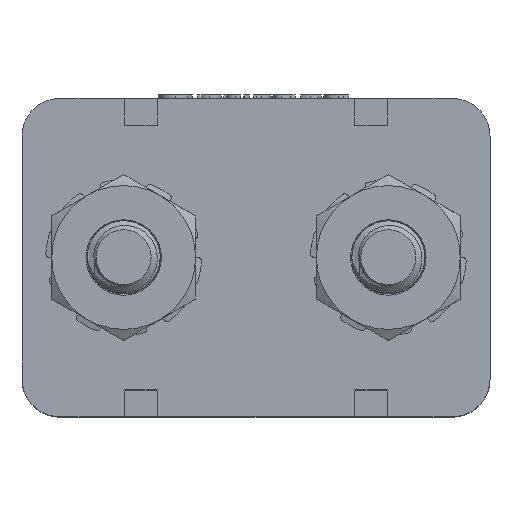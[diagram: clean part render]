
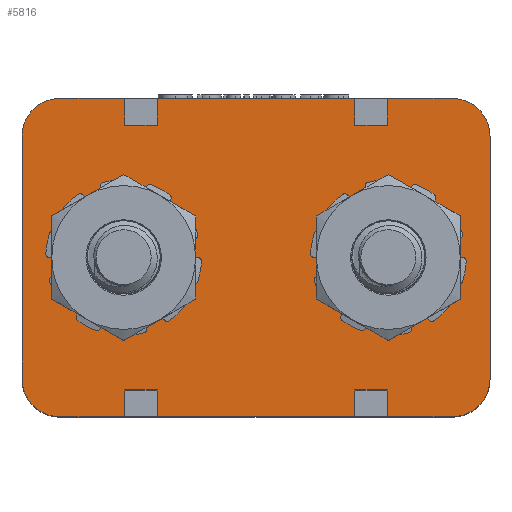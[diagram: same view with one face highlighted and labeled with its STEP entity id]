
A CAD part, top view. The second image highlights one B-rep face of the part: STEP entity #5816.
In plain terms, the highlighted planar face has unit normal (0, 0, 1).
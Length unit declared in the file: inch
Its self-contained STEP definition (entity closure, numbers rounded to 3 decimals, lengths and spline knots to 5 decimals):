
#631=PLANE('',#6155);
#825=FACE_OUTER_BOUND('',#1153,.T.);
#1153=EDGE_LOOP('',(#4549,#4550,#4551,#4552,#4553,#4554,#4555,#4556,#4557,
#4558,#4559,#4560,#4561,#4562,#4563,#4564,#4565,#4566,#4567,#4568,#4569,
#4570,#4571,#4572));
#1562=LINE('',#9263,#1962);
#1565=LINE('',#9269,#1965);
#1569=LINE('',#9276,#1969);
#1572=LINE('',#9284,#1972);
#1575=LINE('',#9290,#1975);
#1579=LINE('',#9297,#1979);
#1582=LINE('',#9305,#1982);
#1585=LINE('',#9311,#1985);
#1589=LINE('',#9318,#1989);
#1592=LINE('',#9324,#1992);
#1593=LINE('',#9327,#1993);
#1605=LINE('',#9357,#2005);
#1607=LINE('',#9360,#2007);
#1608=LINE('',#9364,#2008);
#1609=LINE('',#9368,#2009);
#1610=LINE('',#9370,#2010);
#1611=LINE('',#9372,#2011);
#1612=LINE('',#9373,#2012);
#1613=LINE('',#9375,#2013);
#1614=LINE('',#9379,#2014);
#1962=VECTOR('',#6875,0.3937);
#1965=VECTOR('',#6880,0.3937);
#1969=VECTOR('',#6886,0.3937);
#1972=VECTOR('',#6891,0.3937);
#1975=VECTOR('',#6896,0.3937);
#1979=VECTOR('',#6902,0.3937);
#1982=VECTOR('',#6907,0.3937);
#1985=VECTOR('',#6912,0.3937);
#1989=VECTOR('',#6918,0.3937);
#1992=VECTOR('',#6923,0.3937);
#1993=VECTOR('',#6926,0.3937);
#2005=VECTOR('',#6950,0.3937);
#2007=VECTOR('',#6954,0.3937);
#2008=VECTOR('',#6957,0.3937);
#2009=VECTOR('',#6960,0.3937);
#2010=VECTOR('',#6961,0.3937);
#2011=VECTOR('',#6962,0.3937);
#2012=VECTOR('',#6963,0.3937);
#2013=VECTOR('',#6964,0.3937);
#2014=VECTOR('',#6967,0.3937);
#2128=CIRCLE('',#6156,0.09843);
#2129=CIRCLE('',#6157,0.09843);
#2130=CIRCLE('',#6158,0.09843);
#2131=CIRCLE('',#6159,0.09843);
#2485=VERTEX_POINT('',#9260);
#2486=VERTEX_POINT('',#9262);
#2488=VERTEX_POINT('',#9268);
#2490=VERTEX_POINT('',#9274);
#2493=VERTEX_POINT('',#9281);
#2494=VERTEX_POINT('',#9283);
#2496=VERTEX_POINT('',#9289);
#2498=VERTEX_POINT('',#9295);
#2501=VERTEX_POINT('',#9302);
#2502=VERTEX_POINT('',#9304);
#2504=VERTEX_POINT('',#9310);
#2506=VERTEX_POINT('',#9316);
#2508=VERTEX_POINT('',#9322);
#2509=VERTEX_POINT('',#9326);
#2521=VERTEX_POINT('',#9356);
#2522=VERTEX_POINT('',#9361);
#2523=VERTEX_POINT('',#9363);
#2524=VERTEX_POINT('',#9365);
#2525=VERTEX_POINT('',#9367);
#2526=VERTEX_POINT('',#9369);
#2527=VERTEX_POINT('',#9371);
#2528=VERTEX_POINT('',#9374);
#2529=VERTEX_POINT('',#9376);
#2530=VERTEX_POINT('',#9378);
#3199=EDGE_CURVE('',#2486,#2485,#1562,.T.);
#3202=EDGE_CURVE('',#2488,#2486,#1565,.T.);
#3206=EDGE_CURVE('',#2485,#2490,#1569,.T.);
#3209=EDGE_CURVE('',#2494,#2493,#1572,.T.);
#3212=EDGE_CURVE('',#2496,#2494,#1575,.T.);
#3216=EDGE_CURVE('',#2493,#2498,#1579,.T.);
#3219=EDGE_CURVE('',#2502,#2501,#1582,.T.);
#3222=EDGE_CURVE('',#2504,#2502,#1585,.T.);
#3226=EDGE_CURVE('',#2501,#2506,#1589,.T.);
#3229=EDGE_CURVE('',#2498,#2508,#1592,.T.);
#3230=EDGE_CURVE('',#2509,#2488,#1593,.T.);
#3246=EDGE_CURVE('',#2521,#2504,#1605,.T.);
#3248=EDGE_CURVE('',#2490,#2496,#1607,.T.);
#3249=EDGE_CURVE('',#2522,#2508,#2128,.T.);
#3250=EDGE_CURVE('',#2522,#2523,#1608,.T.);
#3251=EDGE_CURVE('',#2524,#2523,#2129,.T.);
#3252=EDGE_CURVE('',#2524,#2525,#1609,.T.);
#3253=EDGE_CURVE('',#2525,#2526,#1610,.T.);
#3254=EDGE_CURVE('',#2526,#2527,#1611,.T.);
#3255=EDGE_CURVE('',#2527,#2521,#1612,.T.);
#3256=EDGE_CURVE('',#2506,#2528,#1613,.T.);
#3257=EDGE_CURVE('',#2529,#2528,#2130,.T.);
#3258=EDGE_CURVE('',#2529,#2530,#1614,.T.);
#3259=EDGE_CURVE('',#2509,#2530,#2131,.T.);
#4549=ORIENTED_EDGE('',*,*,#3202,.T.);
#4550=ORIENTED_EDGE('',*,*,#3199,.T.);
#4551=ORIENTED_EDGE('',*,*,#3206,.T.);
#4552=ORIENTED_EDGE('',*,*,#3248,.T.);
#4553=ORIENTED_EDGE('',*,*,#3212,.T.);
#4554=ORIENTED_EDGE('',*,*,#3209,.T.);
#4555=ORIENTED_EDGE('',*,*,#3216,.T.);
#4556=ORIENTED_EDGE('',*,*,#3229,.T.);
#4557=ORIENTED_EDGE('',*,*,#3249,.F.);
#4558=ORIENTED_EDGE('',*,*,#3250,.T.);
#4559=ORIENTED_EDGE('',*,*,#3251,.F.);
#4560=ORIENTED_EDGE('',*,*,#3252,.T.);
#4561=ORIENTED_EDGE('',*,*,#3253,.T.);
#4562=ORIENTED_EDGE('',*,*,#3254,.T.);
#4563=ORIENTED_EDGE('',*,*,#3255,.T.);
#4564=ORIENTED_EDGE('',*,*,#3246,.T.);
#4565=ORIENTED_EDGE('',*,*,#3222,.T.);
#4566=ORIENTED_EDGE('',*,*,#3219,.T.);
#4567=ORIENTED_EDGE('',*,*,#3226,.T.);
#4568=ORIENTED_EDGE('',*,*,#3256,.T.);
#4569=ORIENTED_EDGE('',*,*,#3257,.F.);
#4570=ORIENTED_EDGE('',*,*,#3258,.T.);
#4571=ORIENTED_EDGE('',*,*,#3259,.F.);
#4572=ORIENTED_EDGE('',*,*,#3230,.T.);
#5816=ADVANCED_FACE('',(#825),#631,.T.);
#6155=AXIS2_PLACEMENT_3D('',#9359,#6952,#6953);
#6156=AXIS2_PLACEMENT_3D('',#9362,#6955,#6956);
#6157=AXIS2_PLACEMENT_3D('',#9366,#6958,#6959);
#6158=AXIS2_PLACEMENT_3D('',#9377,#6965,#6966);
#6159=AXIS2_PLACEMENT_3D('',#9380,#6968,#6969);
#6875=DIRECTION('',(1.,0.,0.));
#6880=DIRECTION('',(0.,1.,0.));
#6886=DIRECTION('',(0.,-1.,0.));
#6891=DIRECTION('',(1.,0.,0.));
#6896=DIRECTION('',(0.,1.,0.));
#6902=DIRECTION('',(0.,-1.,0.));
#6907=DIRECTION('',(-1.,0.,0.));
#6912=DIRECTION('',(0.,-1.,0.));
#6918=DIRECTION('',(0.,1.,0.));
#6923=DIRECTION('',(1.,0.,0.));
#6926=DIRECTION('',(1.,0.,0.));
#6950=DIRECTION('',(-1.,0.,0.));
#6952=DIRECTION('center_axis',(0.,0.,1.));
#6953=DIRECTION('ref_axis',(1.,0.,0.));
#6954=DIRECTION('',(1.,0.,0.));
#6955=DIRECTION('center_axis',(0.,0.,-1.));
#6956=DIRECTION('ref_axis',(0.707,-0.707,0.));
#6957=DIRECTION('',(0.,1.,0.));
#6958=DIRECTION('center_axis',(0.,0.,-1.));
#6959=DIRECTION('ref_axis',(0.707,0.707,0.));
#6960=DIRECTION('',(-1.,0.,0.));
#6961=DIRECTION('',(0.,-1.,0.));
#6962=DIRECTION('',(-1.,0.,0.));
#6963=DIRECTION('',(0.,1.,0.));
#6964=DIRECTION('',(-1.,0.,0.));
#6965=DIRECTION('center_axis',(0.,0.,-1.));
#6966=DIRECTION('ref_axis',(-0.707,0.707,0.));
#6967=DIRECTION('',(0.,-1.,0.));
#6968=DIRECTION('center_axis',(0.,0.,-1.));
#6969=DIRECTION('ref_axis',(-0.707,-0.707,0.));
#9260=CARTESIAN_POINT('',(0.3525,0.07,0.64));
#9262=CARTESIAN_POINT('',(0.2675,0.07,0.64));
#9263=CARTESIAN_POINT('',(0.43875,0.07,0.64));
#9268=CARTESIAN_POINT('',(0.2675,0.,0.64));
#9269=CARTESIAN_POINT('',(0.2675,0.2075,0.64));
#9274=CARTESIAN_POINT('',(0.3525,0.,0.64));
#9276=CARTESIAN_POINT('',(0.3525,0.2425,0.64));
#9281=CARTESIAN_POINT('',(0.9525,0.07,0.64));
#9283=CARTESIAN_POINT('',(0.8675,0.07,0.64));
#9284=CARTESIAN_POINT('',(0.73875,0.07,0.64));
#9289=CARTESIAN_POINT('',(0.8675,0.,0.64));
#9290=CARTESIAN_POINT('',(0.8675,0.2075,0.64));
#9295=CARTESIAN_POINT('',(0.9525,0.,0.64));
#9297=CARTESIAN_POINT('',(0.9525,0.2425,0.64));
#9302=CARTESIAN_POINT('',(0.2675,0.76,0.64));
#9304=CARTESIAN_POINT('',(0.3525,0.76,0.64));
#9305=CARTESIAN_POINT('',(0.48125,0.76,0.64));
#9310=CARTESIAN_POINT('',(0.3525,0.83,0.64));
#9311=CARTESIAN_POINT('',(0.3525,0.6225,0.64));
#9316=CARTESIAN_POINT('',(0.2675,0.83,0.64));
#9318=CARTESIAN_POINT('',(0.2675,0.5875,0.64));
#9322=CARTESIAN_POINT('',(1.12157,0.,0.64));
#9324=CARTESIAN_POINT('',(1.22,0.,0.64));
#9326=CARTESIAN_POINT('',(0.09843,0.,0.64));
#9327=CARTESIAN_POINT('',(1.22,0.,0.64));
#9356=CARTESIAN_POINT('',(0.8675,0.83,0.64));
#9357=CARTESIAN_POINT('',(0.,0.83,0.64));
#9359=CARTESIAN_POINT('Origin',(0.61,0.415,0.64));
#9360=CARTESIAN_POINT('',(1.22,0.,0.64));
#9361=CARTESIAN_POINT('',(1.22,0.09843,0.64));
#9362=CARTESIAN_POINT('Origin',(1.12157,0.09843,0.64));
#9363=CARTESIAN_POINT('',(1.22,0.73157,0.64));
#9364=CARTESIAN_POINT('',(1.22,0.83,0.64));
#9365=CARTESIAN_POINT('',(1.12157,0.83,0.64));
#9366=CARTESIAN_POINT('Origin',(1.12157,0.73157,0.64));
#9367=CARTESIAN_POINT('',(0.9525,0.83,0.64));
#9368=CARTESIAN_POINT('',(0.,0.83,0.64));
#9369=CARTESIAN_POINT('',(0.9525,0.76,0.64));
#9370=CARTESIAN_POINT('',(0.9525,0.6225,0.64));
#9371=CARTESIAN_POINT('',(0.8675,0.76,0.64));
#9372=CARTESIAN_POINT('',(0.78125,0.76,0.64));
#9373=CARTESIAN_POINT('',(0.8675,0.5875,0.64));
#9374=CARTESIAN_POINT('',(0.09843,0.83,0.64));
#9375=CARTESIAN_POINT('',(0.,0.83,0.64));
#9376=CARTESIAN_POINT('',(0.,0.73157,0.64));
#9377=CARTESIAN_POINT('Origin',(0.09843,0.73157,0.64));
#9378=CARTESIAN_POINT('',(0.,0.09843,0.64));
#9379=CARTESIAN_POINT('',(0.,0.,0.64));
#9380=CARTESIAN_POINT('Origin',(0.09843,0.09843,0.64));
